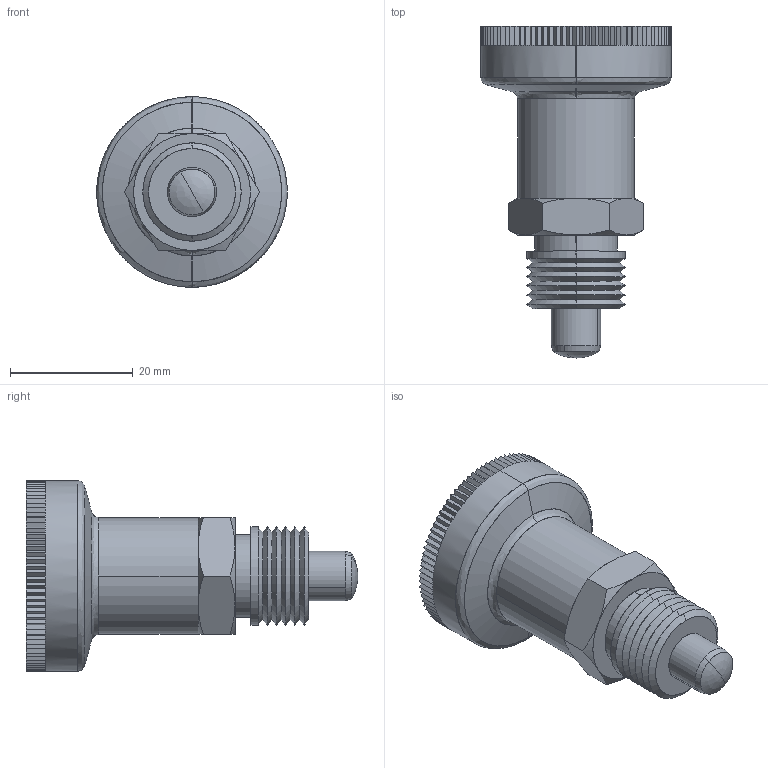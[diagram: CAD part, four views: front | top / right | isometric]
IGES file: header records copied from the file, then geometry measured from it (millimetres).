
Start section: SolidWorks IGES file using analytic representation for surfaces
Global section: file name: C:\Documents and Settings\IANO\Desktop\Temp File\32730_v2\32730_v2_20160202_IGES\32730.W0228.igs; native system: SolidWorks 2009; preprocessor: SolidWorks 2009; author: IANO; date: 160211.142849; units: millimetre
Bounding box: 31 x 54 x 31 mm (x, y, z)
Surface area: 9237.6 mm2 (no closed solid volume)
Topology: 0 solids, 0 shells, 364 faces, 2562 edges, 2560 vertices
Faces by surface type: bspline 294, revolution 70
